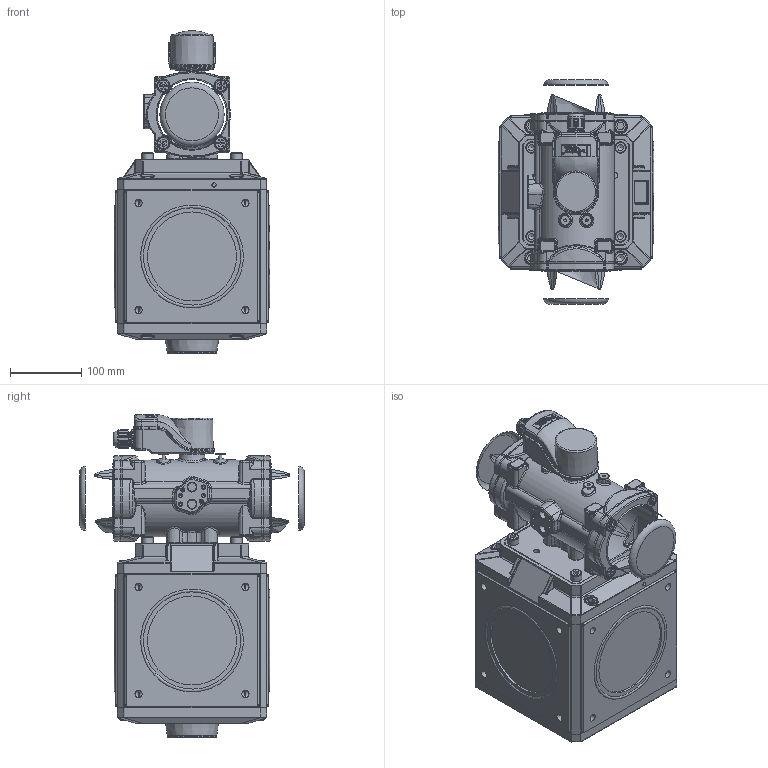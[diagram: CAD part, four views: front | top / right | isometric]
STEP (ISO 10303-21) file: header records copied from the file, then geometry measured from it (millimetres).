
FILE_DESCRIPTION(/* description */ (''),/* implementation_level */ '2;1');
FILE_NAME(/* name */ 'E:\WorkSpace\Designs\1700\1700086.stp',/* time_stamp */ '2022-11-17T13:32:39+01:00',/* author */ ('JJ'),/* organization */ (''),/* preprocessor_version */ 'ST-DEVELOPER v18.1',/* originating_system */ 'Autodesk Inventor 2022',/* authorisation */ '');
FILE_SCHEMA (('AUTOMOTIVE_DESIGN { 1 0 10303 214 3 1 1 }'));
Products named in the file (1): 1700086
Bounding box: 218.28 x 315 x 452.71 mm (x, y, z)
Volume: 13202696.1 mm3; surface area: 619107.6 mm2
Topology: 9 solids, 15 shells, 3255 faces, 7946 edges, 4763 vertices
Faces by surface type: cylinder 934, plane 882, bspline 682, torus 424, cone 278, sphere 55
Full cylindrical faces by diameter (mm): 2.2 x2, 4 x2, 4.2 x4, 4.3 x4, 6 x5, 6.647 x4, 8 x4, 8.5 x10, 9 x4, 10.106 x16, 13.3 x2, 14 x2, 16 x12, 18 x8, 20 x10, 21.8 x1, 23 x1, 24 x1, 25.2 x1, 26.4 x1, 29 x1, 31 x1, 31.5 x1, 39.9 x1, 58 x1, 68 x1, 74 x1, 125 x4
Entity records: 189171 total; most frequent: CARTESIAN_POINT 113612, ORIENTED_EDGE 15758, DIRECTION 14379, EDGE_CURVE 7879, AXIS2_PLACEMENT_3D 5656, VERTEX_POINT 4763, EDGE_LOOP 3422, STYLED_ITEM 3264
